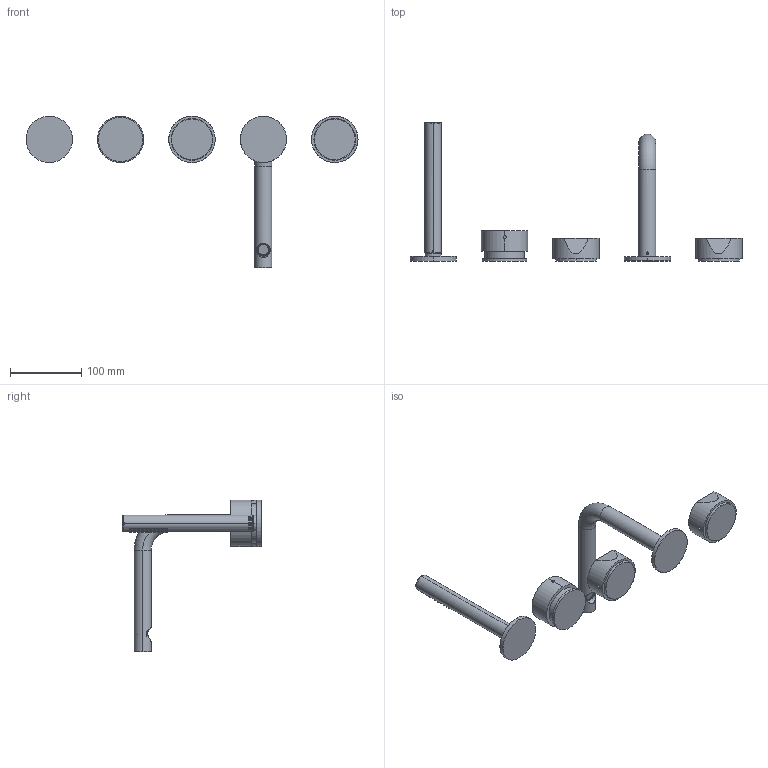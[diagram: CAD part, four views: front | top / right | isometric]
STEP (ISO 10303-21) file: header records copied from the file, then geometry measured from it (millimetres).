
FILE_DESCRIPTION((''),'2;1');
FILE_NAME('27000A2650000CX0_SW0001','2024-06-04T09:12:39',('matteo.follador'),(''),'CREO PARAMETRIC BY PTC INC, 2022424','CREO PARAMETRIC BY PTC INC, 2022424','');
FILE_SCHEMA(('AUTOMOTIVE_DESIGN { 1 0 10303 214 1 1 1 1 }'));
Length unit declared in the file: millimetre
Products named in the file (1): 27000A2650000CX0_SW0001
Bounding box: 465 x 193.7 x 212.5 mm (x, y, z)
Volume: 480916.5 mm3; surface area: 148458.8 mm2
Topology: 7 solids, 9 shells, 700 faces, 1683 edges, 1066 vertices
Faces by surface type: cylinder 199, cone 185, plane 131, torus 98, bspline 86, sphere 1
Entity records: 64466 total; most frequent: CARTESIAN_POINT 44245, ORIENTED_EDGE 3362, DIRECTION 2779, EDGE_CURVE 1681, AXIS2_PLACEMENT_3D 1151, VERTEX_POINT 1066, EDGE_LOOP 895, FACE_OUTER_BOUND 700
